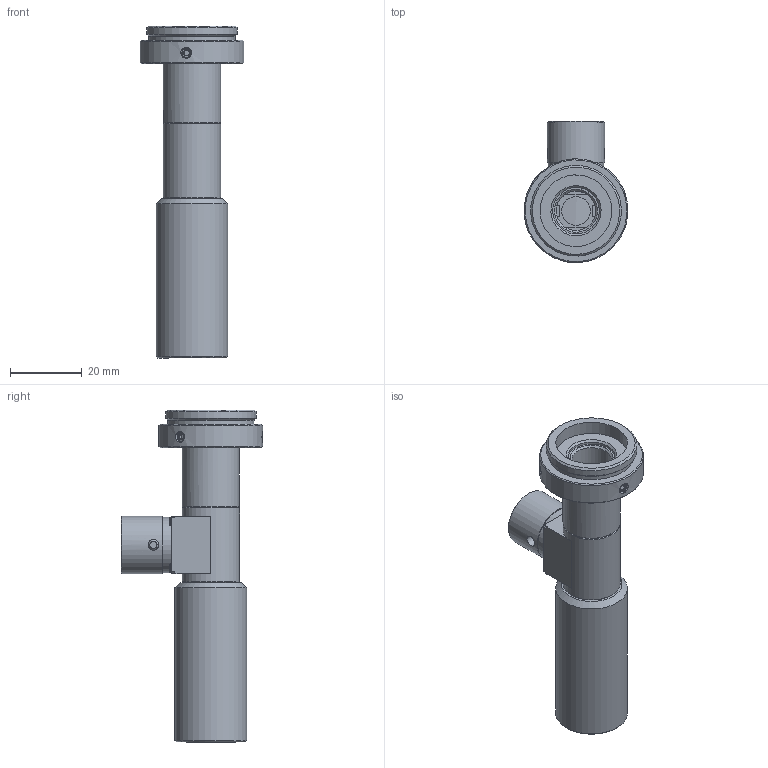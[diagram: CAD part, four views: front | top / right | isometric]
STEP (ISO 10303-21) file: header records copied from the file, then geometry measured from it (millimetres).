
FILE_DESCRIPTION(('STEP AP214'),'1');
FILE_NAME('RTK-08F-124.stp','2026-03-16T09:53:48',(' '),(' '),'Spatial InterOp 3D',' ',' ');
FILE_SCHEMA(('AUTOMOTIVE_DESIGN { 1 0 10303 214 1 1 1 1 }'));
Length unit declared in the file: metre
Products named in the file (2): RTK-08F-124; Component1
Assembly tree (1 placements, depth 2):
  RTK-08F-124
    Component1
Bounding box: 28.94 x 39.5 x 92.61 mm (x, y, z)
Volume: 16203.6 mm3; surface area: 14167.3 mm2
Topology: 1 solids, 13 shells, 382 faces, 904 edges, 581 vertices
Faces by surface type: plane 182, cone 108, cylinder 75, torus 8, sphere 6, bspline 3
Full cylindrical faces by diameter (mm): 1.7 x8, 1.8 x4, 2.5 x6, 3 x3, 6.5 x1, 8 x2, 9 x1, 10 x1, 11 x1, 12.7 x1, 13 x2, 13.4 x1, 13.7 x1, 14 x2, 14.2 x3, 15 x1, 15.5 x2, 16 x5, 16.5 x1, 17.4 x1, 18.2 x1, 20 x2, 24.12 x1, 25.32 x1, 29 x1
Entity records: 17497 total; most frequent: CARTESIAN_POINT 2588, DIRECTION 1768, ORIENTED_EDGE 1464, STYLED_ITEM 1115, PRESENTATION_STYLE_ASSIGNMENT 1115, COLOUR_RGB 1115, AXIS2_PLACEMENT_3D 749, EDGE_CURVE 732
